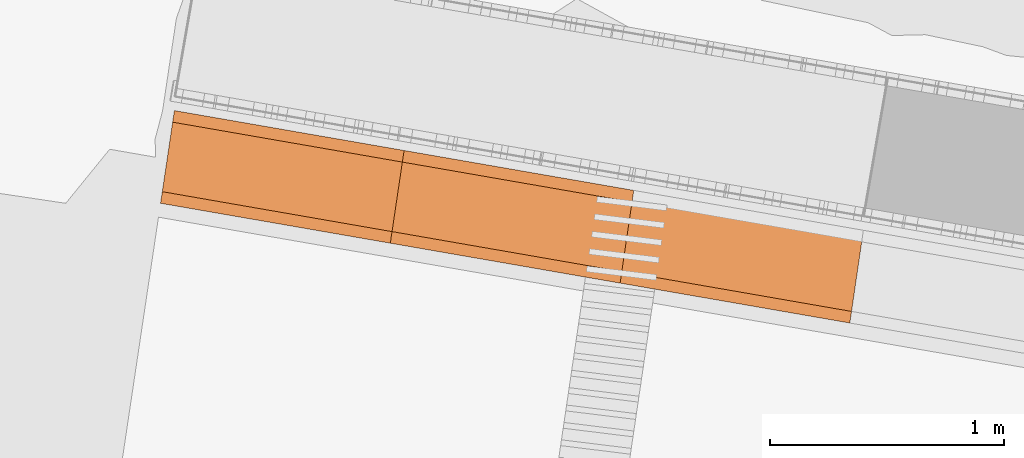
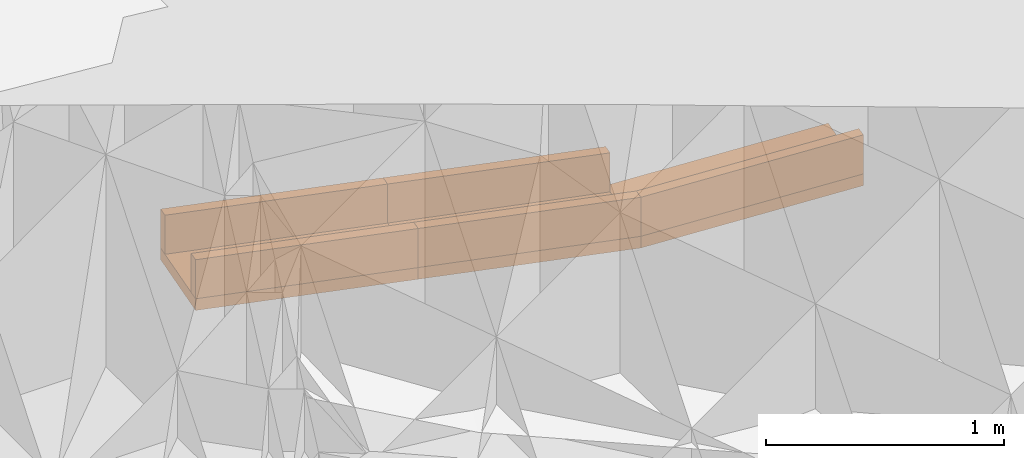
# Not in any storey, part 18 of 46: 8 proxies.
"""IFC4 model written with IfcOpenShell, lengths in metres."""

from ifc_helpers import new_model, si_unit, direction, frame, origin_with_axes, place, context, subcontext, project, spatial, polygons, material, element, save


model = new_model("IFC4")

# Units and contexts
model_context = context("Model", 3, precision=1e-05, world=origin_with_axes(), true_north=direction((0.0, 1.0)))
body_context = subcontext(model_context, "Body", "Model", "MODEL_VIEW")
ifc_project = project(units=[si_unit("VOLUMEUNIT", "CUBIC_METRE"), si_unit("LENGTHUNIT", "METRE"), si_unit("AREAUNIT", "SQUARE_METRE")], contexts=[model_context])

# Site
site_placement = place(None, origin_with_axes())
site = spatial("IfcSite", under=ifc_project, at=site_placement, Name="Lares · Rua das Mercês · artigo 4771")

# Proxies
ifc_material = material(Name="Caleiras · betão", Category="concrete")
proxy_1_placement = place(site_placement, frame((0.0, 0.0, 0.0), z_axis=(0.0, 0.0, 1.0), x_axis=(1.0, -1.03767253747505e-17, 0.0)))
element("IfcBuildingElementProxy", 1, at=proxy_1_placement, inside=site, material=ifc_material, Name="Acesso · canal lateral", ObjectType="Acesso · canal lateral", PredefinedType="USERDEFINED", context=body_context, shape_type="Tessellation", body=[
    polygons([(47.917229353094, 11.7672304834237, 13.48), (47.9761436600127, 12.1628680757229, 13.48), (48.9565965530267, 11.9925404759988, 13.4), (48.897682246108, 11.5969028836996, 13.4), (47.917229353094, 11.7672304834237, 13.54), (47.9761436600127, 12.1628680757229, 13.54), (48.9565965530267, 11.9925404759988, 13.46), (48.897682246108, 11.5969028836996, 13.46)], [[[4, 3, 2, 1]], [[5, 6, 7, 8]], [[1, 2, 6, 5]], [[2, 3, 7, 6]], [[3, 4, 8, 7]], [[4, 1, 5, 8]]]),
])
proxy_2_placement = place(site_placement, frame((0.0, 0.0, 0.0), z_axis=(0.0, 0.0, 1.0), x_axis=(1.0, -1.03767253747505e-17, 0.0)))
element("IfcBuildingElementProxy", 2, at=proxy_2_placement, inside=site, material=ifc_material, Name="Acesso · canal lateral", ObjectType="Acesso · canal lateral", PredefinedType="USERDEFINED", context=body_context, shape_type="Tessellation", body=[
    polygons([(47.917229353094, 11.7672304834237, 13.54), (47.9245936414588, 11.8166851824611, 13.54), (48.9050465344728, 11.646357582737, 13.46), (48.897682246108, 11.5969028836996, 13.46), (47.917229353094, 11.7672304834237, 13.74), (47.9245936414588, 11.8166851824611, 13.74), (48.9050465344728, 11.646357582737, 13.66), (48.897682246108, 11.5969028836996, 13.66)], [[[4, 3, 2, 1]], [[5, 6, 7, 8]], [[1, 2, 6, 5]], [[2, 3, 7, 6]], [[3, 4, 8, 7]], [[4, 1, 5, 8]]]),
])
proxy_3_placement = place(site_placement, frame((0.0, 0.0, 0.0), z_axis=(0.0, 0.0, 1.0), x_axis=(1.0, -1.03767253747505e-17, 0.0)))
element("IfcBuildingElementProxy", 3, at=proxy_3_placement, inside=site, material=ifc_material, Name="Acesso · canal lateral", ObjectType="Acesso · canal lateral", PredefinedType="USERDEFINED", context=body_context, shape_type="Tessellation", body=[
    polygons([(47.9687793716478, 12.1134133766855, 13.54), (47.9761436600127, 12.1628680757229, 13.54), (48.9565965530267, 11.9925404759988, 13.46), (48.9492322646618, 11.9430857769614, 13.46), (47.9687793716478, 12.1134133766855, 13.74), (47.9761436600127, 12.1628680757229, 13.74), (48.9565965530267, 11.9925404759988, 13.66), (48.9492322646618, 11.9430857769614, 13.66)], [[[4, 3, 2, 1]], [[5, 6, 7, 8]], [[1, 2, 6, 5]], [[2, 3, 7, 6]], [[3, 4, 8, 7]], [[4, 1, 5, 8]]]),
])
proxy_4_placement = place(site_placement, frame((0.0, 0.0, 0.0), z_axis=(0.0, 0.0, 1.0), x_axis=(1.0, -1.03767253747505e-17, 0.0)))
element("IfcBuildingElementProxy", 4, at=proxy_4_placement, inside=site, material=ifc_material, Name="Acesso · canal lateral", ObjectType="Acesso · canal lateral", PredefinedType="USERDEFINED", context=body_context, shape_type="Tessellation", body=[
    polygons([(48.8978954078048, 11.5968712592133, 13.4), (48.9563833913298, 11.992572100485, 13.4), (49.9368297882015, 11.8222451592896, 13.32), (49.8783418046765, 11.4265443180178, 13.32), (48.8978954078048, 11.5968712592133, 13.46), (48.9563833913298, 11.992572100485, 13.46), (49.9368297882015, 11.8222451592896, 13.38), (49.8783418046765, 11.4265443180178, 13.38)], [[[4, 3, 2, 1]], [[5, 6, 7, 8]], [[1, 2, 6, 5]], [[2, 3, 7, 6]], [[3, 4, 8, 7]], [[4, 1, 5, 8]]]),
])
proxy_5_placement = place(site_placement, frame((0.0, 0.0, 0.0), z_axis=(0.0, 0.0, 1.0), x_axis=(1.0, -1.03767253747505e-17, 0.0)))
element("IfcBuildingElementProxy", 5, at=proxy_5_placement, inside=site, material=ifc_material, Name="Acesso · canal lateral", ObjectType="Acesso · canal lateral", PredefinedType="USERDEFINED", context=body_context, shape_type="Tessellation", body=[
    polygons([(48.8978954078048, 11.5968712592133, 13.46), (48.9052064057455, 11.6463338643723, 13.46), (49.8856528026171, 11.4760069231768, 13.38), (49.8783418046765, 11.4265443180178, 13.38), (48.8978954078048, 11.5968712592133, 13.66), (48.9052064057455, 11.6463338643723, 13.66), (49.8856528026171, 11.4760069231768, 13.58), (49.8783418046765, 11.4265443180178, 13.58)], [[[4, 3, 2, 1]], [[5, 6, 7, 8]], [[1, 2, 6, 5]], [[2, 3, 7, 6]], [[3, 4, 8, 7]], [[4, 1, 5, 8]]]),
])
proxy_6_placement = place(site_placement, frame((0.0, 0.0, 0.0), z_axis=(0.0, 0.0, 1.0), x_axis=(1.0, -1.03767253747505e-17, 0.0)))
element("IfcBuildingElementProxy", 6, at=proxy_6_placement, inside=site, material=ifc_material, Name="Acesso · canal lateral", ObjectType="Acesso · canal lateral", PredefinedType="USERDEFINED", context=body_context, shape_type="Tessellation", body=[
    polygons([(48.9490723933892, 11.9431094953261, 13.46), (48.9563833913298, 11.992572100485, 13.46), (49.9368297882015, 11.8222451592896, 13.38), (49.9295187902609, 11.7727825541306, 13.38), (48.9490723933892, 11.9431094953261, 13.66), (48.9563833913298, 11.992572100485, 13.66), (49.9368297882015, 11.8222451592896, 13.58), (49.9295187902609, 11.7727825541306, 13.58)], [[[4, 3, 2, 1]], [[5, 6, 7, 8]], [[1, 2, 6, 5]], [[2, 3, 7, 6]], [[3, 4, 8, 7]], [[4, 1, 5, 8]]]),
])
proxy_7_placement = place(site_placement, frame((0.0, 0.0, 0.0), z_axis=(0.0, 0.0, 1.0), x_axis=(1.0, -1.03767253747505e-17, 0.0)))
element("IfcBuildingElementProxy", 7, at=proxy_7_placement, inside=site, material=ifc_material, Name="Acesso · canal lateral", ObjectType="Acesso · canal lateral", PredefinedType="USERDEFINED", context=body_context, shape_type="Tessellation", body=[
    polygons([(49.878560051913, 11.4265121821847, 13.32), (49.936611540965, 11.8222772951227, 13.32), (50.9170512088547, 11.6519510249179, 13.4), (50.8589997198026, 11.2561859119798, 13.4), (49.878560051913, 11.4265121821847, 13.38), (49.936611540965, 11.8222772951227, 13.38), (50.9170512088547, 11.6519510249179, 13.46), (50.8589997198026, 11.2561859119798, 13.46)], [[[4, 3, 2, 1]], [[5, 6, 7, 8]], [[1, 2, 6, 5]], [[2, 3, 7, 6]], [[3, 4, 8, 7]], [[4, 1, 5, 8]]]),
])
proxy_8_placement = place(site_placement, frame((0.0, 0.0, 0.0), z_axis=(0.0, 0.0, 1.0), x_axis=(1.0, -1.03767253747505e-17, 0.0)))
element("IfcBuildingElementProxy", 8, at=proxy_8_placement, inside=site, material=ifc_material, Name="Acesso · canal lateral", ObjectType="Acesso · canal lateral", PredefinedType="USERDEFINED", context=body_context, shape_type="Tessellation", body=[
    polygons([(49.878560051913, 11.4265121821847, 13.38), (49.8858164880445, 11.4759828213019, 13.38), (50.8662561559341, 11.3056565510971, 13.46), (50.8589997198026, 11.2561859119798, 13.46), (49.878560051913, 11.4265121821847, 13.58), (49.8858164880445, 11.4759828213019, 13.58), (50.8662561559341, 11.3056565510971, 13.66), (50.8589997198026, 11.2561859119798, 13.66)], [[[4, 3, 2, 1]], [[5, 6, 7, 8]], [[1, 2, 6, 5]], [[2, 3, 7, 6]], [[3, 4, 8, 7]], [[4, 1, 5, 8]]]),
])

save(model, "model.ifc")
